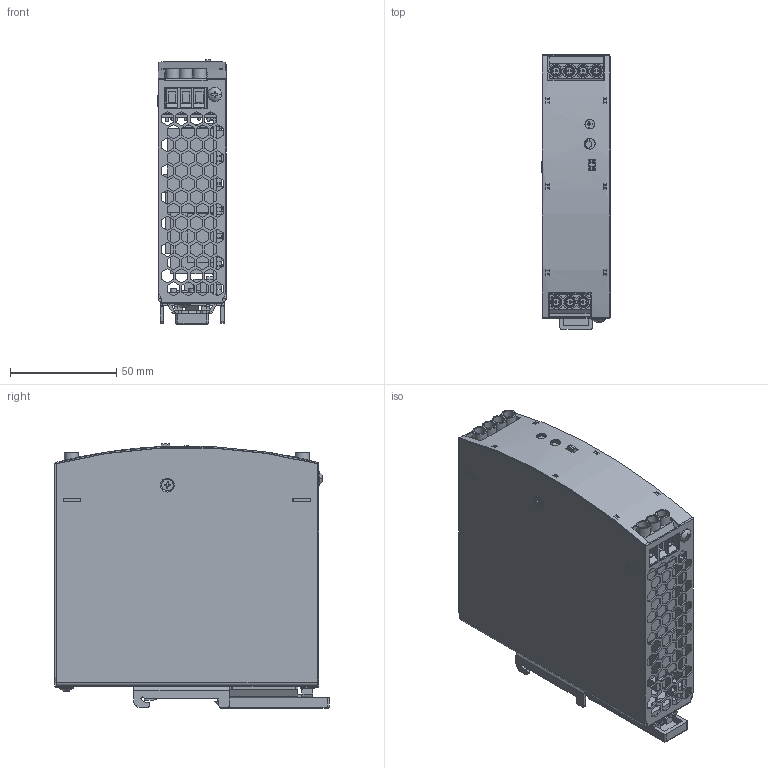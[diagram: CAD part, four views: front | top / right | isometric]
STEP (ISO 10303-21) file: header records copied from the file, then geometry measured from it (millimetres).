
FILE_DESCRIPTION((''),'2;1');
FILE_NAME('0TOP_DG-120-24','2022-08-18T15:03:39',('pd071'),(''),'CREO PARAMETRIC BY PTC INC, 2017260','CREO PARAMETRIC BY PTC INC, 2017260','');
FILE_SCHEMA(('CONFIG_CONTROL_DESIGN','SHAPE_APPEARANCE_LAYERS_GROUPS'));
Products named in the file (1): 0TOP_DG-120-24
Bounding box: 32.15 x 128.9 x 124.14 mm (x, y, z)
Surface area: 172563.3 mm2 (no closed solid volume)
Topology: 0 solids, 290 shells, 3123 faces, 9555 edges, 6609 vertices
Faces by surface type: plane 2718, cylinder 319, bspline 34, cone 28, torus 14, sphere 8, revolution 2
Entity records: 119580 total; most frequent: CARTESIAN_POINT 21347, DIRECTION 17001, ORIENTED_EDGE 16268, EDGE_CURVE 9555, VECTOR 8049, LINE 8049, VERTEX_POINT 6609, AXIS2_PLACEMENT_3D 4475
